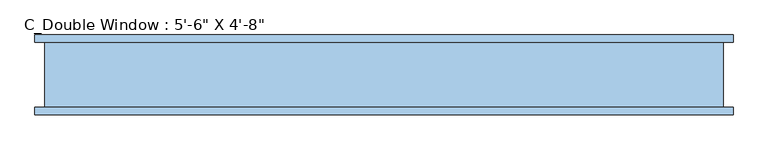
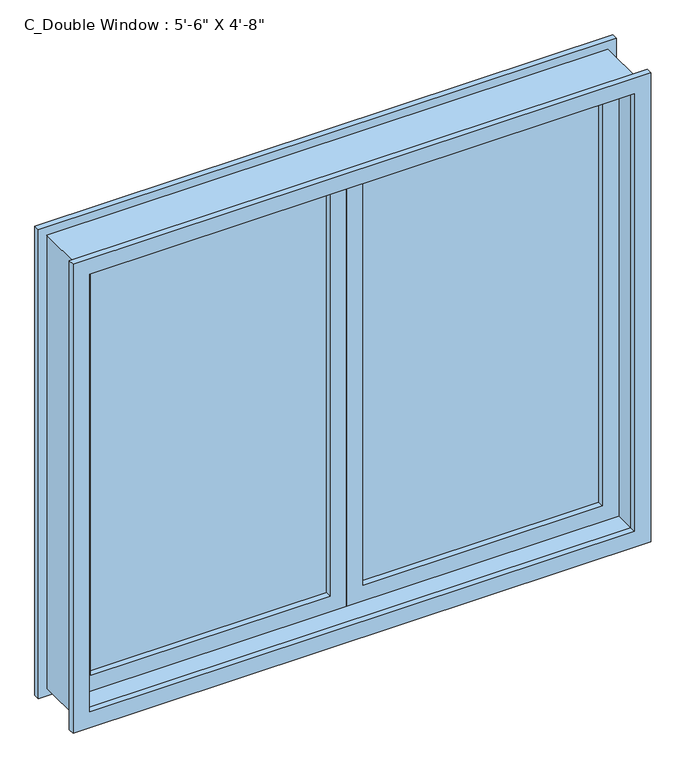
"""IFC4 building model written with IfcOpenShell, lengths in millimetres: window geometry."""

from ifc_helpers import new_model, si_unit, frame, origin, place, context, project, spatial, polyline, outline, extrude, source, transform, mapped, element, save


def window_02472b39(model_context):
    return source(origin(), model_context, "Body", "SweptSolid", [
        extrude(outline(polyline([(2336.8, -838.2), (914.4, -838.2), (914.4, 0.0), (2336.8, 0.0), (2336.8, -838.2)]), holes=[polyline([(2286.0, -50.8), (965.2, -50.8), (965.2, -787.4), (2286.0, -787.4), (2286.0, -50.8)])]), frame((0.0, -19.05, 0.0), z_axis=(0.0, 1.0, 0.0), x_axis=(0.0, 0.0, 1.0)), (0.0, 0.0, 1.0), 50.8),
        extrude(outline(polyline([(-787.4, 0.0), (-787.4, 12.7), (-50.8, 12.7), (-50.8, 0.0), (-787.4, 0.0)])), frame((0.0, 0.0, 965.2), z_axis=(0.0, 0.0, 1.0), x_axis=(1.0, 0.0, 0.0)), (0.0, 0.0, 1.0), 1320.8),
        extrude(outline(polyline([(2336.8, 0.0), (914.4, 0.0), (914.4, 838.2), (2336.8, 838.2), (2336.8, 0.0)]), holes=[polyline([(2286.0, 787.4), (965.2, 787.4), (965.2, 50.8), (2286.0, 50.8), (2286.0, 787.4)])]), frame((0.0, -19.05, 0.0), z_axis=(0.0, 1.0, 0.0), x_axis=(0.0, 0.0, 1.0)), (0.0, 0.0, 1.0), 50.8),
        extrude(outline(polyline([(50.8, 0.0), (50.8, 12.7), (787.4, 12.7), (787.4, 0.0), (50.8, 0.0)])), frame((0.0, 0.0, 965.2), z_axis=(0.0, 0.0, 1.0), x_axis=(1.0, 0.0, 0.0)), (0.0, 0.0, 1.0), 1320.8),
        extrude(outline(polyline([(2387.6, -889.0), (863.6, -889.0), (863.6, 889.0), (2387.6, 889.0), (2387.6, -889.0)]), holes=[polyline([(2336.8, -838.2), (2336.8, 838.2), (914.4, 838.2), (914.4, -838.2), (2336.8, -838.2)])]), frame((0.0, -101.6, 0.0), z_axis=(0.0, 1.0, 0.0), x_axis=(0.0, 0.0, 1.0)), (0.0, 0.0, 1.0), 19.05),
        extrude(outline(polyline([(2387.6, -889.0), (863.6, -889.0), (863.6, 889.0), (2387.6, 889.0), (2387.6, -889.0)]), holes=[polyline([(2336.8, -838.2), (2336.8, 838.2), (914.4, 838.2), (914.4, -838.2), (2336.8, -838.2)])]), frame((0.0, 82.55, 0.0), z_axis=(0.0, 1.0, 0.0), x_axis=(0.0, 0.0, 1.0)), (0.0, 0.0, 1.0), 19.05),
        extrude(outline(polyline([(2362.2, -863.6), (889.0, -863.6), (889.0, 863.6), (2362.2, 863.6), (2362.2, -863.6)]), holes=[polyline([(2336.8, 838.2), (914.4, 838.2), (914.4, -838.2), (2336.8, -838.2), (2336.8, 838.2)])]), frame((0.0, -82.55, 0.0), z_axis=(0.0, 1.0, 0.0), x_axis=(0.0, 0.0, 1.0)), (0.0, 0.0, 1.0), 165.1),
    ])


if __name__ == "__main__":
    model = new_model("IFC4")
    model_context = context("Model", 3, world=origin())
    ifc_project = project(units=[si_unit("LENGTHUNIT", "METRE", prefix="MILLI")], contexts=[model_context])
    site = spatial("IfcSite", under=ifc_project)
    building = spatial("IfcBuilding", under=site)
    placement = place(None, origin())
    window_shape = window_02472b39(model_context)
    element("IfcWindow", 1, ObjectType="C_Double Window : 5'-6\" X 4'-8\"", at=placement, inside=building, context=model_context, shape_type="MappedRepresentation", body=[
        mapped(window_shape, transform((0.0, 0.0, 0.0), x_axis=(1.0, 0.0, 0.0), y_axis=(0.0, 1.0, 0.0), z_axis=(0.0, 0.0, 1.0))),
    ])
    save(model, "model.ifc")
